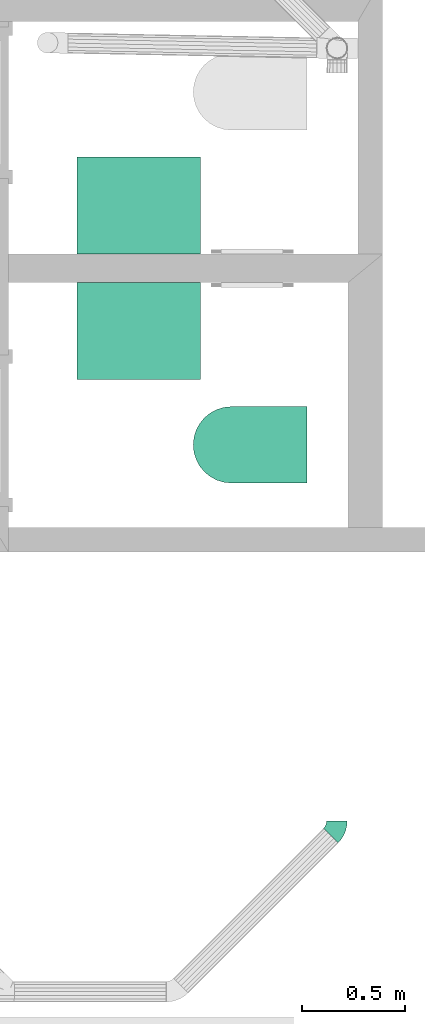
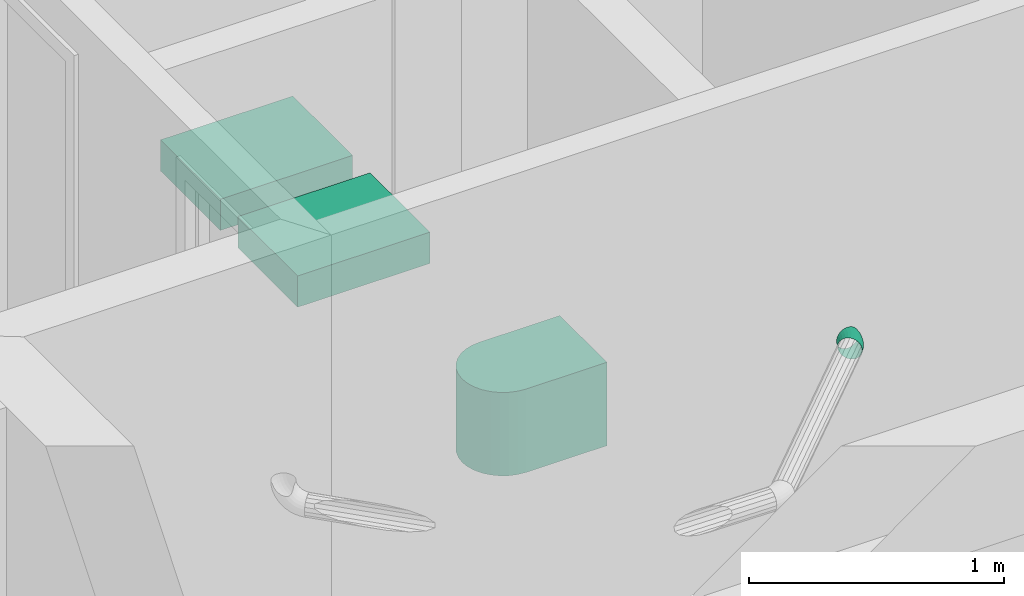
# One storey, part 16 of 23: 3 flow terminals, 1 flow fitting.
"""IFC2X3 building model written with IfcOpenShell, lengths in metres."""

import ifcopenshell
import ifcopenshell.guid

model = None  # the IFC model being written
_history = None  # IfcOwnerHistory: only IFC2X3 demands one
_inside = {}  # id of a spatial element -> (the spatial element, [elements in it])
_under = {}  # id of a project, library or spatial element -> (it, [spatial elements below it])
_declared = {}  # id of a project -> (the project, [libraries it declares])
_typed = {}  # id of a type object -> (the type object, [elements of that type])
_made_of = {}  # id of a material, layer set ... -> (it, [elements and type objects made of it])


def new_model(schema):
    """Start an empty IFC model of exactly this schema.

    Asked for "IFC4X3", IfcOpenShell would pick the latest addendum, in which some entities
    have other attributes; the version numbers below select the first issue.
    IFC2X3 requires an IfcOwnerHistory on every rooted entity: one is made here for all.
    """
    global model, _history
    if schema == "IFC4X3":
        model = ifcopenshell.file(schema_version=(4, 3, 0, 0))
    else:
        model = ifcopenshell.file(schema=schema)
    _inside.clear()
    _under.clear()
    _declared.clear()
    _typed.clear()
    _made_of.clear()
    _history = None
    if model.schema == "IFC2X3":
        org = make("IfcOrganization", Name="unknown")
        user = make(
            "IfcPersonAndOrganization",
            ThePerson=make("IfcPerson", FamilyName="unknown"),
            TheOrganization=org,
        )
        app = make(
            "IfcApplication",
            ApplicationDeveloper=org,
            Version="unknown",
            ApplicationFullName="unknown",
            ApplicationIdentifier="unknown",
        )
        _history = make(
            "IfcOwnerHistory",
            OwningUser=user,
            OwningApplication=app,
            ChangeAction="ADDED",
            CreationDate=0,
        )
    return model


def make(cls, **values):
    """One entity of the class cls with the attributes given. An attribute that is None is left unset."""
    return model.create_entity(
        cls, **{name: value for name, value in values.items() if value is not None}
    )


def entity(cls, *values):
    """Any entity or typed value of the class cls, its attributes in the order of the schema. None: left unset."""
    e = model.create_entity(cls)
    for i, value in enumerate(values):
        if value is not None:
            e[i] = value
    return e


def rooted(cls, **values):
    """An entity with a GlobalId (a new one), such as an element, a storey or a relation."""
    return make(cls, GlobalId=ifcopenshell.guid.new(), OwnerHistory=_history, **values)


def si_unit(unit_type, name, prefix=None):
    """IfcSIUnit, for example si_unit("LENGTHUNIT", "METRE", prefix="MILLI")."""
    return make("IfcSIUnit", UnitType=unit_type, Prefix=prefix, Name=name)


def converted_unit(unit_type, name, factor, base, dimensions=None, offset=None):
    """IfcConversionBasedUnit, such as the inch: factor (a typed value) times the base unit."""
    return make(
        "IfcConversionBasedUnit"
        if offset is None
        else "IfcConversionBasedUnitWithOffset",
        ConversionOffset=offset,
        Dimensions=None
        if dimensions is None
        else entity("IfcDimensionalExponents", *dimensions),
        UnitType=unit_type,
        Name=name,
        ConversionFactor=make(
            "IfcMeasureWithUnit", ValueComponent=factor, UnitComponent=base
        ),
    )


def derived_unit(unit_type, elements):
    """IfcDerivedUnit: a product of units, each with its exponent."""
    return make(
        "IfcDerivedUnit",
        Elements=[
            make("IfcDerivedUnitElement", Unit=unit, Exponent=power)
            for unit, power in elements
        ],
        UnitType=unit_type,
    )


def money_unit(currency):
    """IfcMonetaryUnit."""
    return make("IfcMonetaryUnit", Currency=currency)


def assignment(units):
    """IfcUnitAssignment: the units of a project."""
    return None if units is None else make("IfcUnitAssignment", Units=units)


def point(xyz):
    """IfcCartesianPoint."""
    return None if xyz is None else make("IfcCartesianPoint", Coordinates=xyz)


def direction(xyz):
    """IfcDirection."""
    return None if xyz is None else make("IfcDirection", DirectionRatios=xyz)


def frame(location, z_axis=None, x_axis=None):
    """IfcAxis2Placement3D, a coordinate frame: its origin and axes. An axis left out is left unset."""
    return make(
        "IfcAxis2Placement3D",
        Location=point(location),
        Axis=direction(z_axis),
        RefDirection=direction(x_axis),
    )


def origin_with_axes():
    """The frame at (0, 0, 0) with the z axis (0, 0, 1) and the x axis (1, 0, 0) written out."""
    return frame((0.0, 0.0, 0.0), z_axis=(0.0, 0.0, 1.0), x_axis=(1.0, 0.0, 0.0))


def place(relative_to, where):
    """IfcLocalPlacement: puts the frame where relative to a parent placement (None: the world)."""
    return make(
        "IfcLocalPlacement", PlacementRelTo=relative_to, RelativePlacement=where
    )


def context(
    kind, dimensions, precision=None, world=None, true_north=None, identifier=None
):
    """IfcGeometricRepresentationContext, for example the 3D "Model" context."""
    return make(
        "IfcGeometricRepresentationContext",
        ContextIdentifier=identifier,
        ContextType=kind,
        CoordinateSpaceDimension=dimensions,
        Precision=precision,
        WorldCoordinateSystem=world,
        TrueNorth=true_north,
    )


def subcontext(parent, identifier, kind, view, scale=None):
    """IfcGeometricRepresentationSubContext, for example "Body" below "Model"."""
    return make(
        "IfcGeometricRepresentationSubContext",
        ContextIdentifier=identifier,
        ContextType=kind,
        ParentContext=parent,
        TargetScale=scale,
        TargetView=view,
    )


def project(units=None, contexts=None):
    """IfcProject with its units and contexts."""
    return rooted(
        "IfcProject",
        Name="project",
        RepresentationContexts=contexts,
        UnitsInContext=assignment(units),
    )


def spatial(cls, under=None, at=None, **own):
    """A site, building, storey or space (cls), placed at a placement, below another one or the project."""
    s = rooted(cls, ObjectPlacement=at, **own)
    if under is not None:
        _under.setdefault(under.id(), (under, []))[1].append(s)
    return s


def faces_of(points, faces, orient=None, outer=None):
    """IfcFace entities. A face is a list of loops; a loop is a list of indices into points, from 0.

    orient and outer hold one flag for each loop. By default every Orientation is true, the
    first loop of a face is its IfcFaceOuterBound and the others are IfcFaceBound.
    """
    made = []
    for i, loops in enumerate(faces):
        bounds = []
        for j, loop in enumerate(loops):
            is_outer = j == 0 if outer is None else outer[i][j]
            bounds.append(
                make(
                    "IfcFaceOuterBound" if is_outer else "IfcFaceBound",
                    Bound=make("IfcPolyLoop", Polygon=[points[k] for k in loop]),
                    Orientation=True if orient is None else orient[i][j],
                )
            )
        made.append(make("IfcFace", Bounds=bounds))
    return made


def open_shell(faces, orient=None, outer=None):
    """The faces of one IfcOpenShell. surface_model builds it on its shared points."""
    return ("IfcOpenShell", faces, orient, outer)


def faceted_brep(points, faces, orient=None, outer=None, voids=None):
    """IfcFacetedBrep: a solid bounded by flat faces; with voids (closed shells), ...WithVoids."""
    shared = [point(p) for p in points]
    hull = make("IfcClosedShell", CfsFaces=faces_of(shared, faces, orient, outer))
    if voids is None:
        return make("IfcFacetedBrep", Outer=hull)
    return make(
        "IfcFacetedBrepWithVoids",
        Outer=hull,
        Voids=[
            make(cls, CfsFaces=faces_of(shared, fs, o, b)) for cls, fs, o, b in voids
        ],
    )


def surface_model(cls, points, shells):
    """IfcFaceBasedSurfaceModel or IfcShellBasedSurfaceModel (cls): surfaces that need not close."""
    shared = [point(p) for p in points]
    made = [make(c, CfsFaces=faces_of(shared, fs, o, b)) for c, fs, o, b in shells]
    if cls == "IfcFaceBasedSurfaceModel":
        return make(cls, FbsmFaces=made)
    return make(cls, SbsmBoundary=made)


def shape(context_of_items, identifier, shape_type, items):
    """IfcShapeRepresentation: the items that make up one representation, for example the "Body"."""
    return make(
        "IfcShapeRepresentation",
        ContextOfItems=context_of_items,
        RepresentationIdentifier=identifier,
        RepresentationType=shape_type,
        Items=items,
    )


def material(Name=None, Category=None):
    """IfcMaterial."""
    return make("IfcMaterial", Name=Name, Category=Category)


def made_of(thing, what):
    """Note that an element or type object is made of a material, layer set ...; save() writes the relation."""
    if what is not None:
        _made_of.setdefault(what.id(), (what, []))[1].append(thing)
    return thing


def type_object(cls, material=None, **own):
    """A type object (cls), such as IfcWallType, which elements share."""
    return made_of(rooted(cls, **own), material)


def element(
    cls,
    number,
    at=None,
    inside=None,
    cuts=None,
    type_object=None,
    material=None,
    context=None,
    identifier="Body",
    shape_type=None,
    held_by="IfcProductDefinitionShape",
    body=None,
    shapes=None,
    **own,
):
    """One element of the class cls, such as IfcWall. Its Tag is "e" and its number.

    at: its placement. inside: the storey or other place that contains it. cuts: it is an
    opening in that element (IfcRelVoidsElement). A single representation is given by context,
    identifier, shape_type and body (its items); several are given by shapes. held_by: the class
    of the entity that holds the representations. save() writes the other relations.
    """
    e = rooted(cls, Tag="e%d" % number, ObjectPlacement=at, **own)
    if body is not None:
        shapes = [shape(context, identifier, shape_type, body)]
    if shapes is not None:
        e.Representation = make(held_by, Representations=shapes)
    if inside is not None:
        _inside.setdefault(inside.id(), (inside, []))[1].append(e)
    if cuts is not None:
        rooted(
            "IfcRelVoidsElement", RelatingBuildingElement=cuts, RelatedOpeningElement=e
        )
    if type_object is not None:
        _typed.setdefault(type_object.id(), (type_object, []))[1].append(e)
    return made_of(e, material)


def aggregate(whole, parts):
    """IfcRelAggregates: a whole, such as a stair, and the parts it consists of."""
    return rooted("IfcRelAggregates", RelatingObject=whole, RelatedObjects=parts)


def save(model, path):
    """Write the relations noted so far, then the file.

    IfcRelAggregates (storeys below a building ...), IfcRelContainedInSpatialStructure (elements
    in a storey), IfcRelDefinesByType, IfcRelAssociatesMaterial and IfcRelDeclares: one each for
    every whole, place, type object, material and project.
    """
    for whole, parts in _under.values():
        aggregate(whole, parts)
    for where, things in _inside.values():
        rooted(
            "IfcRelContainedInSpatialStructure",
            RelatedElements=things,
            RelatingStructure=where,
        )
    for kind, things in _typed.values():
        rooted("IfcRelDefinesByType", RelatedObjects=things, RelatingType=kind)
    for what, things in _made_of.values():
        rooted("IfcRelAssociatesMaterial", RelatedObjects=things, RelatingMaterial=what)
    for by, libraries in _declared.values():
        rooted("IfcRelDeclares", RelatingContext=by, RelatedDefinitions=libraries)
    model.write(path)


model = new_model("IFC2X3")

# Units and contexts
model_context = context("Model", 3, precision=1e-05, world=origin_with_axes(), true_north=direction((0.0, 1.0)))
body_context = subcontext(model_context, "Body", "Model", "MODEL_VIEW", scale=1.0)
ifc_project = project(units=[si_unit("LENGTHUNIT", "METRE"), si_unit("AREAUNIT", "SQUARE_METRE"), si_unit("VOLUMEUNIT", "CUBIC_METRE"), si_unit("ABSORBEDDOSEUNIT", "GRAY"), si_unit("AMOUNTOFSUBSTANCEUNIT", "MOLE"), si_unit("DOSEEQUIVALENTUNIT", "SIEVERT"), si_unit("ELECTRICCAPACITANCEUNIT", "FARAD"), si_unit("ELECTRICCHARGEUNIT", "COULOMB"), si_unit("ELECTRICCONDUCTANCEUNIT", "SIEMENS"), si_unit("ELECTRICCURRENTUNIT", "AMPERE"), si_unit("ELECTRICRESISTANCEUNIT", "OHM"), si_unit("ELECTRICVOLTAGEUNIT", "VOLT"), si_unit("ENERGYUNIT", "JOULE"), si_unit("FORCEUNIT", "NEWTON"), si_unit("FREQUENCYUNIT", "HERTZ"), si_unit("ILLUMINANCEUNIT", "LUX"), si_unit("INDUCTANCEUNIT", "HENRY"), si_unit("LUMINOUSFLUXUNIT", "LUMEN"), si_unit("LUMINOUSINTENSITYUNIT", "CANDELA"), si_unit("MAGNETICFLUXDENSITYUNIT", "TESLA"), si_unit("MAGNETICFLUXUNIT", "WEBER"), si_unit("MASSUNIT", "GRAM"), converted_unit("PLANEANGLEUNIT", "degree", entity("IfcReal", 0.0174532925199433), si_unit("PLANEANGLEUNIT", "RADIAN"), dimensions=[0, 0, 0, 0, 0, 0, 0]), si_unit("POWERUNIT", "WATT"), si_unit("PRESSUREUNIT", "PASCAL"), si_unit("RADIOACTIVITYUNIT", "BECQUEREL"), si_unit("SOLIDANGLEUNIT", "STERADIAN"), si_unit("THERMODYNAMICTEMPERATUREUNIT", "KELVIN"), si_unit("TIMEUNIT", "SECOND"), derived_unit("ACCELERATIONUNIT", [(si_unit("LENGTHUNIT", "METRE"), 1), (si_unit("TIMEUNIT", "SECOND"), -2)]), derived_unit("ANGULARVELOCITYUNIT", [(converted_unit("PLANEANGLEUNIT", "degree", entity("IfcReal", 0.0174532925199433), si_unit("PLANEANGLEUNIT", "RADIAN"), dimensions=[0, 0, 0, 0, 0, 0, 0]), 1), (si_unit("TIMEUNIT", "SECOND"), -1)]), derived_unit("CURVATUREUNIT", [(converted_unit("PLANEANGLEUNIT", "degree", entity("IfcReal", 0.0174532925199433), si_unit("PLANEANGLEUNIT", "RADIAN"), dimensions=[0, 0, 0, 0, 0, 0, 0]), 1), (si_unit("LENGTHUNIT", "METRE"), -1)]), derived_unit("DYNAMICVISCOSITYUNIT", [(si_unit("PRESSUREUNIT", "PASCAL"), 1), (si_unit("TIMEUNIT", "SECOND"), 1)]), derived_unit("HEATFLUXDENSITYUNIT", [(si_unit("POWERUNIT", "WATT"), 1), (si_unit("LENGTHUNIT", "METRE"), -2)]), derived_unit("HEATINGVALUEUNIT", [(si_unit("ENERGYUNIT", "JOULE"), 1), (si_unit("MASSUNIT", "GRAM"), -1)]), derived_unit("INTEGERCOUNTRATEUNIT", [(si_unit("TIMEUNIT", "SECOND"), -1)]), derived_unit("IONCONCENTRATIONUNIT", [(si_unit("MASSUNIT", "GRAM"), 1), (si_unit("VOLUMEUNIT", "CUBIC_METRE"), -1)]), derived_unit("ISOTHERMALMOISTURECAPACITYUNIT", [(si_unit("VOLUMEUNIT", "CUBIC_METRE"), 1), (si_unit("MASSUNIT", "GRAM"), -1)]), derived_unit("KINEMATICVISCOSITYUNIT", [(si_unit("AREAUNIT", "SQUARE_METRE"), 1), (si_unit("TIMEUNIT", "SECOND"), -1)]), derived_unit("LINEARFORCEUNIT", [(si_unit("FORCEUNIT", "NEWTON"), 1), (si_unit("LENGTHUNIT", "METRE"), -1)]), derived_unit("LINEARMOMENTUNIT", [(si_unit("FORCEUNIT", "NEWTON"), 1), (si_unit("LENGTHUNIT", "METRE"), -1)]), derived_unit("LINEARSTIFFNESSUNIT", [(si_unit("FORCEUNIT", "NEWTON"), 1), (si_unit("LENGTHUNIT", "METRE"), -1)]), derived_unit("LINEARVELOCITYUNIT", [(si_unit("LENGTHUNIT", "METRE"), 1), (si_unit("TIMEUNIT", "SECOND"), -1)]), derived_unit("LUMINOUSINTENSITYDISTRIBUTIONUNIT", [(si_unit("LUMINOUSINTENSITYUNIT", "CANDELA"), 1), (si_unit("LUMINOUSFLUXUNIT", "LUMEN"), -1)]), derived_unit("MASSDENSITYUNIT", [(si_unit("MASSUNIT", "GRAM"), 1), (si_unit("VOLUMEUNIT", "CUBIC_METRE"), -1)]), derived_unit("MASSFLOWRATEUNIT", [(si_unit("MASSUNIT", "GRAM"), 1), (si_unit("TIMEUNIT", "SECOND"), -1)]), derived_unit("MASSPERLENGTHUNIT", [(si_unit("MASSUNIT", "GRAM"), 1), (si_unit("LENGTHUNIT", "METRE"), -1)]), derived_unit("MODULUSOFELASTICITYUNIT", [(si_unit("FORCEUNIT", "NEWTON"), 1), (si_unit("AREAUNIT", "SQUARE_METRE"), -1)]), derived_unit("MODULUSOFLINEARSUBGRADEREACTIONUNIT", [(si_unit("FORCEUNIT", "NEWTON"), 1), (si_unit("LENGTHUNIT", "METRE"), -2)]), derived_unit("MODULUSOFROTATIONALSUBGRADEREACTIONUNIT", [(si_unit("FORCEUNIT", "NEWTON"), 1), (si_unit("LENGTHUNIT", "METRE"), 1)]), derived_unit("MODULUSOFSUBGRADEREACTIONUNIT", [(si_unit("FORCEUNIT", "NEWTON"), 1), (si_unit("VOLUMEUNIT", "CUBIC_METRE"), -1)]), derived_unit("MOISTUREDIFFUSIVITYUNIT", [(si_unit("VOLUMEUNIT", "CUBIC_METRE"), 1), (si_unit("TIMEUNIT", "SECOND"), -1)]), derived_unit("MOLECULARWEIGHTUNIT", [(si_unit("MASSUNIT", "GRAM"), 1), (si_unit("AMOUNTOFSUBSTANCEUNIT", "MOLE"), -1)]), derived_unit("PLANARFORCEUNIT", [(si_unit("FORCEUNIT", "NEWTON"), 1), (si_unit("LENGTHUNIT", "METRE"), -2)]), derived_unit("ROTATIONALFREQUENCYUNIT", [(si_unit("TIMEUNIT", "SECOND"), -1)]), derived_unit("ROTATIONALMASSUNIT", [(si_unit("MASSUNIT", "GRAM"), 1), (si_unit("LENGTHUNIT", "METRE"), 2)]), derived_unit("ROTATIONALSTIFFNESSUNIT", [(si_unit("FORCEUNIT", "NEWTON"), 1), (si_unit("LENGTHUNIT", "METRE"), 1), (converted_unit("PLANEANGLEUNIT", "degree", entity("IfcReal", 0.0174532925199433), si_unit("PLANEANGLEUNIT", "RADIAN"), dimensions=[0, 0, 0, 0, 0, 0, 0]), -1)]), derived_unit("SECTIONAREAINTEGRALUNIT", [(si_unit("LENGTHUNIT", "METRE"), 5)]), derived_unit("SECTIONMODULUSUNIT", [(si_unit("LENGTHUNIT", "METRE"), 3)]), derived_unit("SHEARMODULUSUNIT", [(si_unit("FORCEUNIT", "NEWTON"), 1), (si_unit("AREAUNIT", "SQUARE_METRE"), -1)]), derived_unit("SOUNDPOWERUNIT", [(si_unit("ENERGYUNIT", "JOULE"), 1), (si_unit("TIMEUNIT", "SECOND"), -1)]), derived_unit("SPECIFICHEATCAPACITYUNIT", [(si_unit("FORCEUNIT", "NEWTON"), 1), (si_unit("MASSUNIT", "GRAM"), -1), (si_unit("THERMODYNAMICTEMPERATUREUNIT", "KELVIN"), -1)]), derived_unit("TEMPERATUREGRADIENTUNIT", [(si_unit("THERMODYNAMICTEMPERATUREUNIT", "KELVIN"), 1), (si_unit("LENGTHUNIT", "METRE"), -1)]), derived_unit("THERMALADMITTANCEUNIT", [(si_unit("POWERUNIT", "WATT"), 1), (si_unit("AREAUNIT", "SQUARE_METRE"), -1), (si_unit("THERMODYNAMICTEMPERATUREUNIT", "KELVIN"), -1)]), derived_unit("THERMALCONDUCTANCEUNIT", [(si_unit("POWERUNIT", "WATT"), 1), (si_unit("LENGTHUNIT", "METRE"), -1), (si_unit("THERMODYNAMICTEMPERATUREUNIT", "KELVIN"), -1)]), derived_unit("THERMALEXPANSIONCOEFFICIENTUNIT", [(si_unit("THERMODYNAMICTEMPERATUREUNIT", "KELVIN"), -1)]), derived_unit("THERMALRESISTANCEUNIT", [(si_unit("AREAUNIT", "SQUARE_METRE"), 1), (si_unit("POWERUNIT", "WATT"), -1)]), derived_unit("THERMALTRANSMITTANCEUNIT", [(si_unit("POWERUNIT", "WATT"), 1), (si_unit("AREAUNIT", "SQUARE_METRE"), -1), (si_unit("THERMODYNAMICTEMPERATUREUNIT", "KELVIN"), -1)]), derived_unit("TORQUEUNIT", [(si_unit("FORCEUNIT", "NEWTON"), 1), (si_unit("LENGTHUNIT", "METRE"), 1)]), derived_unit("VAPORPERMEABILITYUNIT", [(si_unit("MASSUNIT", "GRAM"), 1), (si_unit("TIMEUNIT", "SECOND"), -1)]), derived_unit("VOLUMETRICFLOWRATEUNIT", [(si_unit("VOLUMEUNIT", "CUBIC_METRE"), 1), (si_unit("TIMEUNIT", "SECOND"), -1)]), derived_unit("WARPINGCONSTANTUNIT", [(si_unit("LENGTHUNIT", "METRE"), 6)]), derived_unit("WARPINGMOMENTUNIT", [(si_unit("FORCEUNIT", "NEWTON"), 1), (si_unit("LENGTHUNIT", "METRE"), 2)]), money_unit("GBP")], contexts=[model_context])

# Site, building, storey, space
site_placement = place(None, origin_with_axes())
site = spatial("IfcSite", under=ifc_project, at=site_placement, Name="Site", CompositionType="ELEMENT")
building_placement = place(site_placement, origin_with_axes())
building = spatial("IfcBuilding", under=site, at=building_placement, Name="Building01", CompositionType="ELEMENT")
storey_placement = place(building_placement, frame((0.0, 0.0, 2.6), z_axis=(0.0, 0.0, 1.0), x_axis=(1.0, 0.0, 0.0)))
storey = spatial("IfcBuildingStorey", under=building, at=storey_placement, Name="MF", CompositionType="ELEMENT", Elevation=2.6)
space_1_placement = place(storey_placement, frame((14.421434, 6.076984, 0.0), z_axis=(0.0, 0.0, 1.0), x_axis=(0.0, -1.0, 0.0)))
space_1 = spatial("IfcSpace", under=storey, at=space_1_placement, Name="storage", CompositionType="ELEMENT", InteriorOrExteriorSpace="NOTDEFINED")

# Flow fitting
ifc_material = material(Name="M_BSUK_ColdWater")
pipe_fitting_type = type_object("IfcPipeFittingType", Name="M-BmpElbow-DefaultElbow", PredefinedType="BEND")
placement = place(building_placement, origin_with_axes())
flow_fitting_placement = place(placement, frame((17.376697, 4.704855, 4.641439), z_axis=(0.70714306, -0.70705155, 0.00517679), x_axis=(0.70705155, 0.70705154, -0.01249902)))
element("IfcFlowFitting", 1, at=flow_fitting_placement, inside=space_1, type_object=pipe_fitting_type, material=ifc_material, Name="M-BmpElbow-DefaultElbow", ObjectType="M-BmpElbow-DefaultElbow", context=body_context, shape_type="SurfaceModel", body=[
    surface_model("IfcShellBasedSurfaceModel", [(0.008111, -0.01349, -0.048784), (0.0, -0.01349, -0.048146), (0.0, 0.0, -0.05), (0.007821, 0.0, -0.050615), (0.016023, -0.01349, -0.050683), (0.01545, 0.0, -0.052447), (0.023539, -0.01349, -0.053797), (0.022698, 0.0, -0.055449), (0.030477, -0.01349, -0.058048), (0.029387, 0.0, -0.059548), (0.036664, -0.01349, -0.063331), (0.035353, 0.0, -0.064642), (0.00896, -0.025979, -0.043426), (0.0, -0.025979, -0.042721), (0.017699, -0.025979, -0.045524), (0.026002, -0.025979, -0.048963), (0.033665, -0.025979, -0.053659), (0.0405, -0.025979, -0.059495), (0.010304, -0.036542, -0.034939), (0.0, -0.036542, -0.034128), (0.020354, -0.036542, -0.037351), (0.029903, -0.036542, -0.041306), (0.038716, -0.036542, -0.046706), (0.046576, -0.036542, -0.053418), (0.012044, -0.044394, -0.023951), (0.0, -0.044394, -0.023003), (0.023791, -0.044394, -0.026771), (0.034953, -0.044394, -0.031394), (0.045254, -0.044394, -0.037706), (0.054441, -0.044394, -0.045552), (0.014051, -0.048954, -0.011279), (0.0, -0.048954, -0.010173), (0.027756, -0.048954, -0.014569), (0.040778, -0.048954, -0.019962), (0.052795, -0.048954, -0.027326), (0.063513, -0.048954, -0.036478), (0.016176, -0.049883, 0.002139), (0.0, -0.049883, 0.003412), (0.031954, -0.049883, -0.001648), (0.046945, -0.049883, -0.007857), (0.06078, -0.049883, -0.016335), (0.073119, -0.049883, -0.026872), (0.018261, -0.047113, 0.015307), (0.0, -0.047113, 0.016744), (0.036073, -0.047113, 0.011031), (0.052997, -0.047113, 0.004022), (0.068616, -0.047113, -0.005549), (0.082545, -0.047113, -0.017444), (0.020152, -0.040848, 0.027248), (0.0, -0.040848, 0.028834), (0.039809, -0.040848, 0.022529), (0.058485, -0.040848, 0.014794), (0.075721, -0.040848, 0.004233), (0.091094, -0.040848, -0.008895), (0.021709, -0.031554, 0.037077), (0.0, -0.031554, 0.038786), (0.042884, -0.031554, 0.031994), (0.063003, -0.031554, 0.023661), (0.08157, -0.031554, 0.012284), (0.09813, -0.031554, -0.001857), (0.022816, -0.01992, 0.044065), (0.0, -0.01992, 0.045861), (0.04507, -0.01992, 0.038723), (0.066214, -0.01992, 0.029965), (0.085729, -0.01992, 0.018008), (0.103132, -0.01992, 0.003146), (0.02339, -0.006808, 0.047694), (0.0, -0.006808, 0.049534), (0.046205, -0.006808, 0.042217), (0.067882, -0.006808, 0.033239), (0.087888, -0.006808, 0.02098), (0.10573, -0.006808, 0.005744), (0.02339, 0.006808, 0.047694), (0.0, 0.006808, 0.049534), (0.046205, 0.006808, 0.042217), (0.067882, 0.006808, 0.033239), (0.087888, 0.006808, 0.02098), (0.10573, 0.006808, 0.005744), (0.022816, 0.01992, 0.044065), (0.0, 0.01992, 0.045861), (0.04507, 0.01992, 0.038723), (0.066214, 0.01992, 0.029965), (0.085729, 0.01992, 0.018008), (0.103132, 0.01992, 0.003146), (0.021709, 0.031554, 0.037077), (0.0, 0.031554, 0.038786), (0.042884, 0.031554, 0.031994), (0.063003, 0.031554, 0.023661), (0.08157, 0.031554, 0.012284), (0.09813, 0.031554, -0.001857), (0.020152, 0.040848, 0.027248), (0.0, 0.040848, 0.028834), (0.039809, 0.040848, 0.022529), (0.058485, 0.040848, 0.014794), (0.075721, 0.040848, 0.004233), (0.091094, 0.040848, -0.008895), (0.018261, 0.047113, 0.015307), (0.0, 0.047113, 0.016744), (0.036073, 0.047113, 0.011031), (0.052997, 0.047113, 0.004022), (0.068616, 0.047113, -0.005549), (0.082545, 0.047113, -0.017444), (0.016176, 0.049883, 0.002139), (0.0, 0.049883, 0.003412), (0.031954, 0.049883, -0.001648), (0.046945, 0.049883, -0.007857), (0.06078, 0.049883, -0.016335), (0.073119, 0.049883, -0.026872), (0.014051, 0.048954, -0.011279), (0.0, 0.048954, -0.010173), (0.027756, 0.048954, -0.014569), (0.040778, 0.048954, -0.019962), (0.052795, 0.048954, -0.027326), (0.063513, 0.048954, -0.036478), (0.012044, 0.044394, -0.023951), (0.0, 0.044394, -0.023003), (0.023791, 0.044394, -0.026771), (0.034953, 0.044394, -0.031394), (0.045254, 0.044394, -0.037706), (0.054441, 0.044394, -0.045552), (0.010304, 0.036542, -0.034939), (0.0, 0.036542, -0.034128), (0.020354, 0.036542, -0.037351), (0.029903, 0.036542, -0.041306), (0.038716, 0.036542, -0.046706), (0.046576, 0.036542, -0.053418), (0.00896, 0.025979, -0.043426), (0.0, 0.025979, -0.042721), (0.017699, 0.025979, -0.045524), (0.026002, 0.025979, -0.048963), (0.033665, 0.025979, -0.053659), (0.0405, 0.025979, -0.059495), (0.008111, 0.01349, -0.048784), (0.0, 0.01349, -0.048146), (0.016023, 0.01349, -0.050683), (0.023539, 0.01349, -0.053797), (0.030477, 0.01349, -0.058048), (0.036664, 0.01349, -0.063331)], [open_shell([[[0, 1, 2, 3]], [[4, 0, 3, 5]], [[6, 4, 5, 7]], [[8, 6, 7, 9]], [[10, 8, 9, 11]], [[12, 13, 1, 0]], [[14, 12, 0, 4]], [[15, 14, 4, 6]], [[16, 15, 6, 8]], [[17, 16, 8, 10]], [[18, 19, 13, 12]], [[20, 18, 12, 14]], [[21, 20, 14, 15]], [[22, 21, 15, 16]], [[23, 22, 16, 17]], [[24, 25, 19, 18]], [[26, 24, 18, 20]], [[27, 26, 20, 21]], [[28, 27, 21, 22]], [[29, 28, 22, 23]], [[30, 31, 25, 24]], [[32, 30, 24, 26]], [[33, 32, 26, 27]], [[34, 33, 27, 28]], [[35, 34, 28, 29]], [[36, 37, 31, 30]], [[38, 36, 30, 32]], [[39, 38, 32, 33]], [[40, 39, 33, 34]], [[41, 40, 34, 35]], [[42, 43, 37, 36]], [[44, 42, 36, 38]], [[45, 44, 38, 39]], [[46, 45, 39, 40]], [[47, 46, 40, 41]], [[48, 49, 43, 42]], [[50, 48, 42, 44]], [[51, 50, 44, 45]], [[52, 51, 45, 46]], [[53, 52, 46, 47]], [[54, 55, 49, 48]], [[56, 54, 48, 50]], [[57, 56, 50, 51]], [[58, 57, 51, 52]], [[59, 58, 52, 53]], [[60, 61, 55, 54]], [[62, 60, 54, 56]], [[63, 62, 56, 57]], [[64, 63, 57, 58]], [[65, 64, 58, 59]], [[66, 67, 61, 60]], [[68, 66, 60, 62]], [[69, 68, 62, 63]], [[70, 69, 63, 64]], [[71, 70, 64, 65]], [[72, 73, 67, 66]], [[74, 72, 66, 68]], [[75, 74, 68, 69]], [[76, 75, 69, 70]], [[77, 76, 70, 71]], [[78, 79, 73, 72]], [[80, 78, 72, 74]], [[81, 80, 74, 75]], [[82, 81, 75, 76]], [[83, 82, 76, 77]], [[84, 85, 79, 78]], [[86, 84, 78, 80]], [[87, 86, 80, 81]], [[88, 87, 81, 82]], [[89, 88, 82, 83]], [[90, 91, 85, 84]], [[92, 90, 84, 86]], [[93, 92, 86, 87]], [[94, 93, 87, 88]], [[95, 94, 88, 89]], [[96, 97, 91, 90]], [[98, 96, 90, 92]], [[99, 98, 92, 93]], [[100, 99, 93, 94]], [[101, 100, 94, 95]], [[102, 103, 97, 96]], [[104, 102, 96, 98]], [[105, 104, 98, 99]], [[106, 105, 99, 100]], [[107, 106, 100, 101]], [[108, 109, 103, 102]], [[110, 108, 102, 104]], [[111, 110, 104, 105]], [[112, 111, 105, 106]], [[113, 112, 106, 107]], [[114, 115, 109, 108]], [[116, 114, 108, 110]], [[117, 116, 110, 111]], [[118, 117, 111, 112]], [[119, 118, 112, 113]], [[120, 121, 115, 114]], [[122, 120, 114, 116]], [[123, 122, 116, 117]], [[124, 123, 117, 118]], [[125, 124, 118, 119]], [[126, 127, 121, 120]], [[128, 126, 120, 122]], [[129, 128, 122, 123]], [[130, 129, 123, 124]], [[131, 130, 124, 125]], [[132, 133, 127, 126]], [[134, 132, 126, 128]], [[135, 134, 128, 129]], [[136, 135, 129, 130]], [[137, 136, 130, 131]], [[3, 2, 133, 132]], [[5, 3, 132, 134]], [[7, 5, 134, 135]], [[9, 7, 135, 136]], [[11, 9, 136, 137]]])]),
])

# Space
space_2_placement = place(storey_placement, frame((15.816265, 6.196984, 0.0), z_axis=(0.0, 0.0, 1.0), x_axis=(1.0, 0.0, 0.0)))
space_2 = spatial("IfcSpace", under=storey, at=space_2_placement, Name="WC", CompositionType="ELEMENT", InteriorOrExteriorSpace="NOTDEFINED")

# Flow terminals
sanitary_terminal_type_1 = type_object("IfcSanitaryTerminalType", Name="SHE_A-Sink_47x60", PredefinedType="NOTDEFINED")
flow_terminal_1_placement = place(storey_placement, frame((16.446265, 7.147919, 1.405999), z_axis=(0.0, 0.0, 1.0), x_axis=(0.0, -1.0, 0.0)))
element("IfcFlowTerminal", 2, at=flow_terminal_1_placement, inside=space_2, type_object=sanitary_terminal_type_1, Name="00", ObjectType="SHE_A-Sink_47x60", context=body_context, shape_type="Brep", body=[
    faceted_brep([(-0.235, 0.3, -0.075), (-0.235, 0.3, 0.075), (0.235, 0.3, 0.075), (0.235, 0.3, -0.075), (0.235, -0.3, 0.075), (0.235, -0.3, -0.075), (-0.235, -0.3, 0.075), (-0.235, -0.3, -0.075)], [[[0, 1, 2, 3]], [[3, 2, 4, 5]], [[5, 4, 6, 7]], [[7, 6, 1, 0]], [[1, 6, 4, 2]], [[3, 5, 7, 0]]]),
])
flow_terminal_2_placement = place(storey_placement, frame((16.446265, 7.75492, 1.405999), z_axis=(0.0, 0.0, 1.0), x_axis=(0.0, -1.0, 0.0)))
element("IfcFlowTerminal", 3, at=flow_terminal_2_placement, inside=space_2, type_object=sanitary_terminal_type_1, Name="00", ObjectType="SHE_A-Sink_47x60", context=body_context, shape_type="Brep", body=[
    faceted_brep([(-0.235, 0.3, -0.075), (-0.235, 0.3, 0.075), (0.235, 0.3, 0.075), (0.235, 0.3, -0.075), (-0.235, -0.3, -0.075), (-0.235, -0.3, 0.075), (0.235, -0.3, -0.075), (0.235, -0.3, 0.075)], [[[0, 1, 2, 3]], [[4, 5, 1, 0]], [[6, 7, 5, 4]], [[3, 2, 7, 6]], [[1, 5, 7, 2]], [[3, 6, 4, 0]]]),
])
sanitary_terminal_type_2 = type_object("IfcSanitaryTerminalType", Name="SHE_A-Toilet_base", PredefinedType="NOTDEFINED")
flow_terminal_3_placement = place(storey_placement, frame((16.984942, 6.596976, 0.781), z_axis=(0.0, 0.0, 1.0), x_axis=(1.0, 0.0, 0.0)))
element("IfcFlowTerminal", 4, at=flow_terminal_3_placement, inside=space_2, type_object=sanitary_terminal_type_2, Name="00", ObjectType="SHE_A-Toilet_base", context=body_context, shape_type="Brep", body=[
    faceted_brep([(0.275003, 0.185008, -0.2), (0.275003, -0.185009, -0.2), (-0.089995, -0.185009, -0.2), (-0.126088, -0.181454, -0.2), (-0.160795, -0.170926, -0.2), (-0.19278, -0.153829, -0.2), (-0.220816, -0.130821, -0.2), (-0.243824, -0.102785, -0.2), (-0.26092, -0.0708, -0.2), (-0.271448, -0.036093, -0.2), (-0.275003, 0.0, -0.2), (-0.271448, 0.036093, -0.2), (-0.26092, 0.0708, -0.2), (-0.243824, 0.102785, -0.2), (-0.220816, 0.130821, -0.2), (-0.19278, 0.153829, -0.2), (-0.160795, 0.170926, -0.2), (-0.126088, 0.181454, -0.2), (-0.089995, 0.185008, -0.2), (-0.089995, 0.185008, 0.2), (-0.126088, 0.181454, 0.2), (-0.160795, 0.170926, 0.2), (-0.19278, 0.153829, 0.2), (-0.220816, 0.130821, 0.2), (-0.243824, 0.102785, 0.2), (-0.26092, 0.0708, 0.2), (-0.271448, 0.036093, 0.2), (-0.275003, 0.0, 0.2), (-0.271448, -0.036093, 0.2), (-0.26092, -0.0708, 0.2), (-0.243824, -0.102785, 0.2), (-0.220816, -0.130821, 0.2), (-0.19278, -0.153829, 0.2), (-0.160795, -0.170926, 0.2), (-0.126088, -0.181454, 0.2), (-0.089995, -0.185009, 0.2), (0.275003, -0.185009, 0.2), (0.275003, 0.185008, 0.2)], [[[0, 1, 2, 3, 4, 5, 6, 7, 8, 9, 10, 11, 12, 13, 14, 15, 16, 17, 18]], [[19, 20, 21, 22, 23, 24, 25, 26, 27, 28, 29, 30, 31, 32, 33, 34, 35, 36, 37]], [[2, 35, 34, 3]], [[3, 34, 33, 4]], [[4, 33, 32, 5]], [[5, 32, 31, 6]], [[6, 31, 30, 7]], [[7, 30, 29, 8]], [[8, 29, 28, 9]], [[9, 28, 27, 10]], [[10, 27, 26, 11]], [[11, 26, 25, 12]], [[12, 25, 24, 13]], [[13, 24, 23, 14]], [[14, 23, 22, 15]], [[15, 22, 21, 16]], [[16, 21, 20, 17]], [[17, 20, 19, 18]], [[1, 36, 35, 2]], [[0, 37, 36, 1]], [[18, 19, 37, 0]]]),
])

save(model, "model.ifc")
